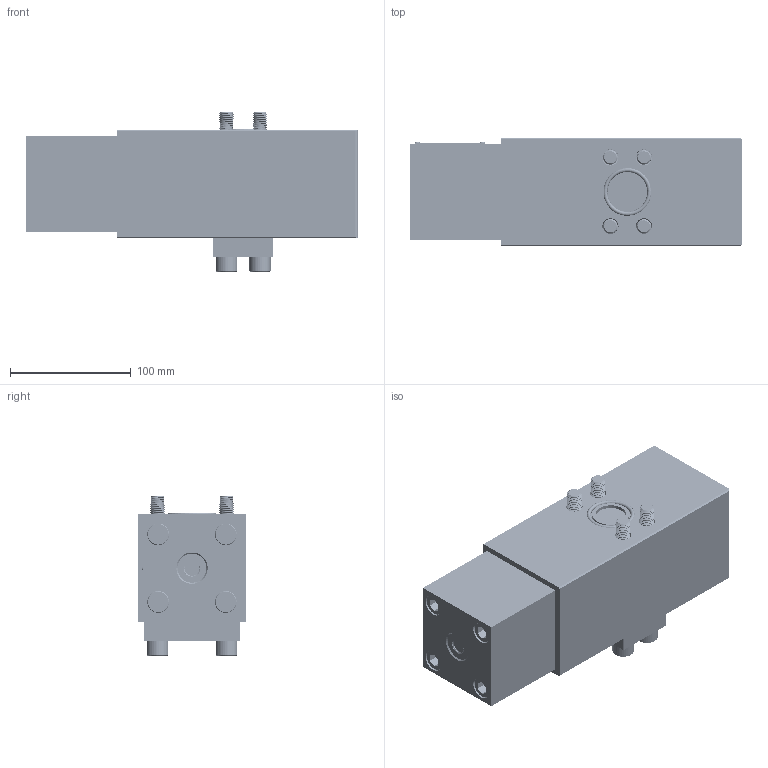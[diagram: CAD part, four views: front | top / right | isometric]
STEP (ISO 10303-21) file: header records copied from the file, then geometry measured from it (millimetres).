
FILE_DESCRIPTION(/* description */ (''),/* implementation_level */ '2;1');
FILE_NAME(/* name */ 'FD25FA平衡阀.prt.stp',/* time_stamp */ '2022-03-30T20:02:10+08:00',/* author */ (''),/* organization */ (''),/* preprocessor_version */ 'ST-DEVELOPER v16.7',/* originating_system */ 'SIEMENS PLM Software NX 12.0',/* authorisation */ '');
FILE_SCHEMA (('AUTOMOTIVE_DESIGN { 1 0 10303 214 3 1 1 1 }'));
Products named in the file (1): FD25FA平衡阀
Bounding box: 275 x 90 x 132 mm (x, y, z)
Volume: 550646.6 mm3; surface area: 236536 mm2
Topology: 16 solids, 17 shells, 692 faces, 1884 edges, 1251 vertices
Faces by surface type: cylinder 455, plane 158, bspline 40, cone 36, torus 3
Full cylindrical faces by diameter (mm): 1.8 x2, 1.9 x2, 2 x2, 10.5 x80, 11 x4, 12 x284, 12.5 x7, 13.5 x4, 14 x4, 18 x12, 24 x1, 25 x3, 31 x2, 39.5 x2, 50 x1, 54 x1
Entity records: 56109 total; most frequent: CARTESIAN_POINT 49422, ORIENTED_EDGE 1200, DIRECTION 1172, EDGE_CURVE 600, EDGE_LOOP 470, VERTEX_POINT 456, AXIS2_PLACEMENT_3D 452, ADVANCED_FACE 317
